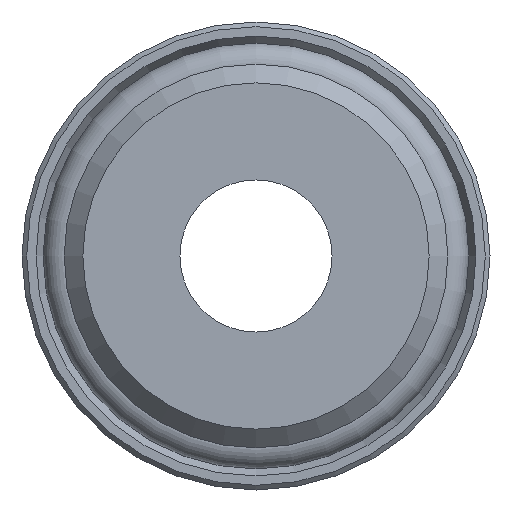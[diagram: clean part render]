
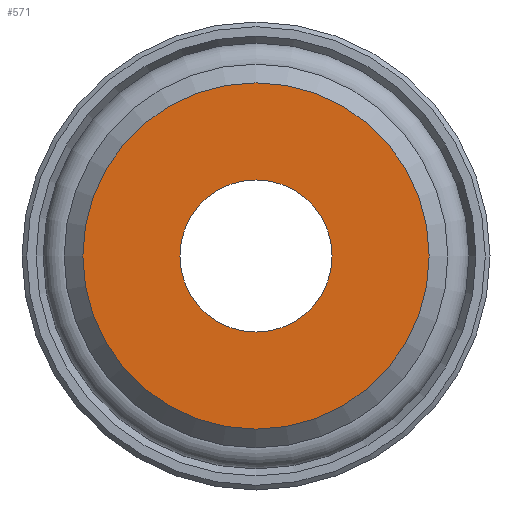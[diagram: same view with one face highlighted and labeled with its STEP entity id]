
A CAD part, front view. The second image highlights one B-rep face of the part: STEP entity #571.
In plain terms, the highlighted planar face has unit normal (0, -1, 0).
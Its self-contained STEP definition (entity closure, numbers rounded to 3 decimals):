
#544=CARTESIAN_POINT('',(-5.325,0.0,0.0));
#545=DIRECTION('',(0.0,-1.0,0.0));
#546=DIRECTION('',(0.0,0.0,-1.0));
#547=AXIS2_PLACEMENT_3D('',#544,#545,#546);
#548=PLANE('',#547);
#549=CARTESIAN_POINT('',(-7.4,0.0,0.0));
#550=VERTEX_POINT('',#549);
#551=CARTESIAN_POINT('',(0.0,0.0,0.0));
#552=DIRECTION('',(0.0,1.0,0.0));
#553=DIRECTION('',(-1.0,0.0,0.0));
#554=AXIS2_PLACEMENT_3D('',#551,#552,#553);
#555=CIRCLE('',#554,7.4);
#556=EDGE_CURVE('',#550,#550,#555,.T.);
#557=ORIENTED_EDGE('',*,*,#556,.F.);
#558=EDGE_LOOP('',(#557));
#559=FACE_OUTER_BOUND('',#558,.T.);
#560=CARTESIAN_POINT('',(-3.25,0.0,0.0));
#561=VERTEX_POINT('',#560);
#562=CARTESIAN_POINT('',(0.0,0.0,0.0));
#563=DIRECTION('',(0.0,1.0,0.0));
#564=DIRECTION('',(-1.0,0.0,0.0));
#565=AXIS2_PLACEMENT_3D('',#562,#563,#564);
#566=CIRCLE('',#565,3.25);
#567=EDGE_CURVE('',#561,#561,#566,.T.);
#568=ORIENTED_EDGE('',*,*,#567,.T.);
#569=EDGE_LOOP('',(#568));
#570=FACE_BOUND('',#569,.T.);
#571=ADVANCED_FACE('',(#559,#570),#548,.T.);
